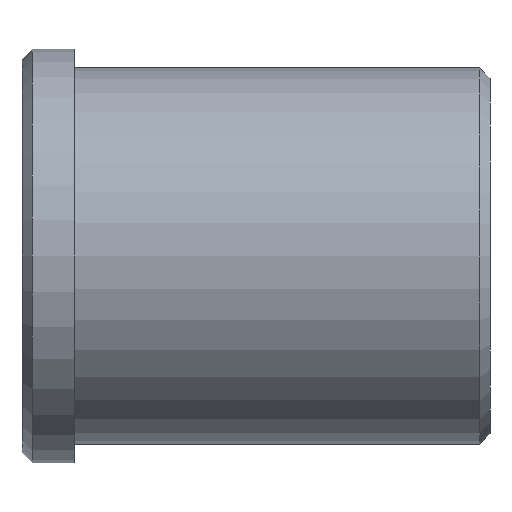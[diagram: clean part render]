
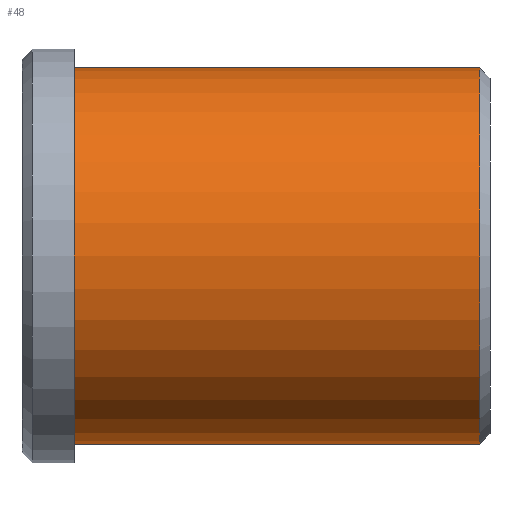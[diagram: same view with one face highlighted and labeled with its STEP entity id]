
A CAD part, front view. The second image highlights one B-rep face of the part: STEP entity #48.
In plain terms, the highlighted cylindrical face has radius 18.1 mm (diameter 36.2 mm), a full revolution.
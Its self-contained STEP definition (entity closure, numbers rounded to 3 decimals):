
#48 = ADVANCED_FACE( '', ( #99, #100 ), #101, .T. );
#99 = FACE_OUTER_BOUND( '', #146, .T. );
#100 = FACE_OUTER_BOUND( '', #147, .T. );
#101 = CYLINDRICAL_SURFACE( '', #148, 18.1 );
#146 = EDGE_LOOP( '', ( #201 ) );
#147 = EDGE_LOOP( '', ( #202 ) );
#148 = AXIS2_PLACEMENT_3D( '', #203, #204, #205 );
#201 = ORIENTED_EDGE( '', *, *, #235, .T. );
#202 = ORIENTED_EDGE( '', *, *, #231, .F. );
#203 = CARTESIAN_POINT( '', ( 85., 0., 0. ) );
#204 = DIRECTION( '', ( 1., 0., 0. ) );
#205 = DIRECTION( '', ( 0., 0., 1. ) );
#231 = EDGE_CURVE( '', #258, #258, #259, .T. );
#235 = EDGE_CURVE( '', #264, #264, #265, .F. );
#258 = VERTEX_POINT( '', #288 );
#259 = CIRCLE( '', #289, 18.1 );
#264 = VERTEX_POINT( '', #294 );
#265 = CIRCLE( '', #295, 18.1 );
#288 = CARTESIAN_POINT( '', ( 5., 0., 18.1 ) );
#289 = AXIS2_PLACEMENT_3D( '', #319, #320, #321 );
#294 = CARTESIAN_POINT( '', ( 44., 0., -18.1 ) );
#295 = AXIS2_PLACEMENT_3D( '', #325, #326, #327 );
#319 = CARTESIAN_POINT( '', ( 5., 0., 0. ) );
#320 = DIRECTION( '', ( -1., 0., 0. ) );
#321 = DIRECTION( '', ( 0., 0., 1. ) );
#325 = CARTESIAN_POINT( '', ( 44., 0., 0. ) );
#326 = DIRECTION( '', ( 1., 0., 0. ) );
#327 = DIRECTION( '', ( 0., 0., -1. ) );
